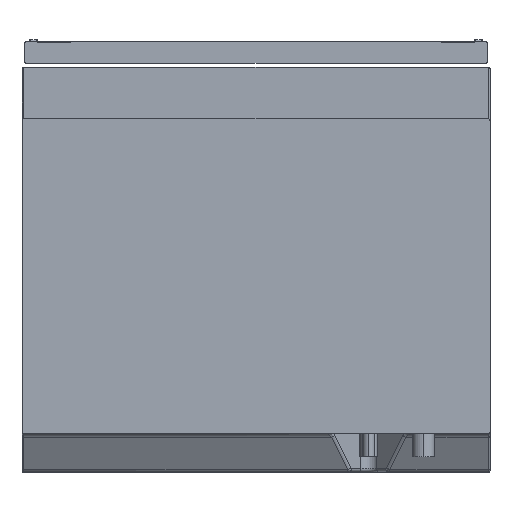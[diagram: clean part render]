
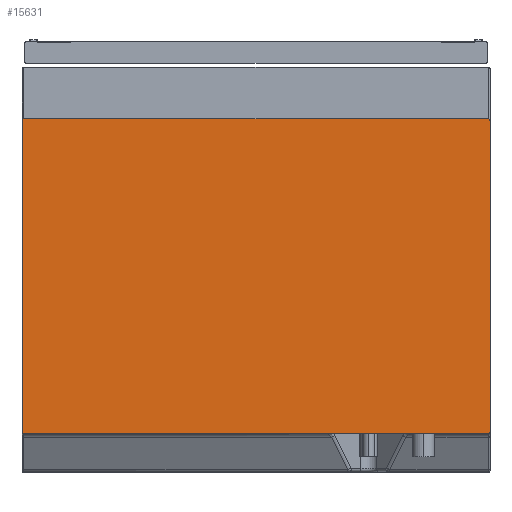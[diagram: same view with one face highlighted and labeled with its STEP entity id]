
A CAD part, front view. The second image highlights one B-rep face of the part: STEP entity #15631.
In plain terms, the highlighted planar face has unit normal (0, -1, 0).
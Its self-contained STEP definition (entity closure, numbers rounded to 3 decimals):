
#95 = CARTESIAN_POINT ( 'NONE',  ( 297., 0., 451.7 ) ) ;
#311 = ORIENTED_EDGE ( 'NONE', *, *, #1475, .F. ) ;
#508 = ORIENTED_EDGE ( 'NONE', *, *, #3736, .T. ) ;
#789 = AXIS2_PLACEMENT_3D ( 'NONE', #8562, #14830, #7128 ) ;
#920 = CARTESIAN_POINT ( 'NONE',  ( -297., 0., 451.7 ) ) ;
#987 = DIRECTION ( 'NONE',  ( 0., 0., -1. ) ) ;
#1438 = EDGE_CURVE ( 'NONE', #7327, #5503, #3724, .T. ) ;
#1475 = EDGE_CURVE ( 'NONE', #10085, #3728, #7635, .T. ) ;
#1513 = AXIS2_PLACEMENT_3D ( 'NONE', #3099, #12020, #4534 ) ;
#1705 = AXIS2_PLACEMENT_3D ( 'NONE', #10202, #13747, #2591 ) ;
#1975 = CARTESIAN_POINT ( 'NONE',  ( -299., 0., 50. ) ) ;
#2086 = ORIENTED_EDGE ( 'NONE', *, *, #1438, .F. ) ;
#2591 = DIRECTION ( 'NONE',  ( 0., 0., -1. ) ) ;
#3099 = CARTESIAN_POINT ( 'NONE',  ( -297., 0., 52. ) ) ;
#3724 = LINE ( 'NONE', #15821, #14670 ) ;
#3728 = VERTEX_POINT ( 'NONE', #5610 ) ;
#3736 = EDGE_CURVE ( 'NONE', #9739, #5685, #15976, .T. ) ;
#4534 = DIRECTION ( 'NONE',  ( 0., 0., -1. ) ) ;
#4574 = CARTESIAN_POINT ( 'NONE',  ( 297., 0., 52. ) ) ;
#5053 = PLANE ( 'NONE',  #10006 ) ;
#5080 = VECTOR ( 'NONE', #14992, 1000. ) ;
#5149 = ORIENTED_EDGE ( 'NONE', *, *, #5280, .T. ) ;
#5280 = EDGE_CURVE ( 'NONE', #10085, #5503, #9693, .T. ) ;
#5503 = VERTEX_POINT ( 'NONE', #95 ) ;
#5610 = CARTESIAN_POINT ( 'NONE',  ( 299., 0., 52. ) ) ;
#5685 = VERTEX_POINT ( 'NONE', #11810 ) ;
#6027 = CARTESIAN_POINT ( 'NONE',  ( 299., 0., 449.7 ) ) ;
#6227 = CARTESIAN_POINT ( 'NONE',  ( 299., 0., 451.7 ) ) ;
#6963 = ORIENTED_EDGE ( 'NONE', *, *, #8313, .T. ) ;
#6998 = EDGE_CURVE ( 'NONE', #5685, #15309, #7700, .T. ) ;
#7128 = DIRECTION ( 'NONE',  ( 0., 0., -1. ) ) ;
#7327 = VERTEX_POINT ( 'NONE', #920 ) ;
#7635 = LINE ( 'NONE', #6227, #5080 ) ;
#7700 = LINE ( 'NONE', #1975, #12960 ) ;
#7861 = VERTEX_POINT ( 'NONE', #8347 ) ;
#7929 = EDGE_CURVE ( 'NONE', #15309, #3728, #12167, .T. ) ;
#8313 = EDGE_CURVE ( 'NONE', #7861, #9739, #11736, .T. ) ;
#8347 = CARTESIAN_POINT ( 'NONE',  ( -299., 0., 449.7 ) ) ;
#8397 = DIRECTION ( 'NONE',  ( 0., -1., 0. ) ) ;
#8434 = VECTOR ( 'NONE', #987, 1000. ) ;
#8562 = CARTESIAN_POINT ( 'NONE',  ( 297., 0., 449.7 ) ) ;
#9671 = CARTESIAN_POINT ( 'NONE',  ( -299., 0., 451.7 ) ) ;
#9693 = CIRCLE ( 'NONE', #789, 2. ) ;
#9739 = VERTEX_POINT ( 'NONE', #12941 ) ;
#9939 = ORIENTED_EDGE ( 'NONE', *, *, #10208, .T. ) ;
#9998 = DIRECTION ( 'NONE',  ( 0., 0., -1. ) ) ;
#10006 = AXIS2_PLACEMENT_3D ( 'NONE', #9671, #8397, #9998 ) ;
#10085 = VERTEX_POINT ( 'NONE', #6027 ) ;
#10180 = AXIS2_PLACEMENT_3D ( 'NONE', #4574, #13419, #15893 ) ;
#10202 = CARTESIAN_POINT ( 'NONE',  ( -297., 0., 449.7 ) ) ;
#10208 = EDGE_CURVE ( 'NONE', #7327, #7861, #14226, .T. ) ;
#10741 = DIRECTION ( 'NONE',  ( 1., 0., 0. ) ) ;
#10890 = ORIENTED_EDGE ( 'NONE', *, *, #6998, .T. ) ;
#11523 = CARTESIAN_POINT ( 'NONE',  ( 297., 0., 50. ) ) ;
#11736 = LINE ( 'NONE', #14225, #8434 ) ;
#11810 = CARTESIAN_POINT ( 'NONE',  ( -297., 0., 50. ) ) ;
#12020 = DIRECTION ( 'NONE',  ( 0., -1., 0. ) ) ;
#12167 = CIRCLE ( 'NONE', #10180, 2. ) ;
#12941 = CARTESIAN_POINT ( 'NONE',  ( -299., 0., 52. ) ) ;
#12960 = VECTOR ( 'NONE', #14289, 1000. ) ;
#13322 = EDGE_LOOP ( 'NONE', ( #311, #5149, #2086, #9939, #6963, #508, #10890, #15879 ) ) ;
#13419 = DIRECTION ( 'NONE',  ( 0., -1., 0. ) ) ;
#13466 = FACE_OUTER_BOUND ( 'NONE', #13322, .T. ) ;
#13747 = DIRECTION ( 'NONE',  ( 0., -1., 0. ) ) ;
#14225 = CARTESIAN_POINT ( 'NONE',  ( -299., 0., 451.7 ) ) ;
#14226 = CIRCLE ( 'NONE', #1705, 2. ) ;
#14289 = DIRECTION ( 'NONE',  ( 1., 0., 0. ) ) ;
#14670 = VECTOR ( 'NONE', #10741, 1000. ) ;
#14830 = DIRECTION ( 'NONE',  ( 0., -1., 0. ) ) ;
#14992 = DIRECTION ( 'NONE',  ( 0., 0., -1. ) ) ;
#15309 = VERTEX_POINT ( 'NONE', #11523 ) ;
#15631 = ADVANCED_FACE ( 'NONE', ( #13466 ), #5053, .T. ) ;
#15821 = CARTESIAN_POINT ( 'NONE',  ( -299., 0., 451.7 ) ) ;
#15879 = ORIENTED_EDGE ( 'NONE', *, *, #7929, .T. ) ;
#15893 = DIRECTION ( 'NONE',  ( 0., 0., -1. ) ) ;
#15976 = CIRCLE ( 'NONE', #1513, 2. ) ;
